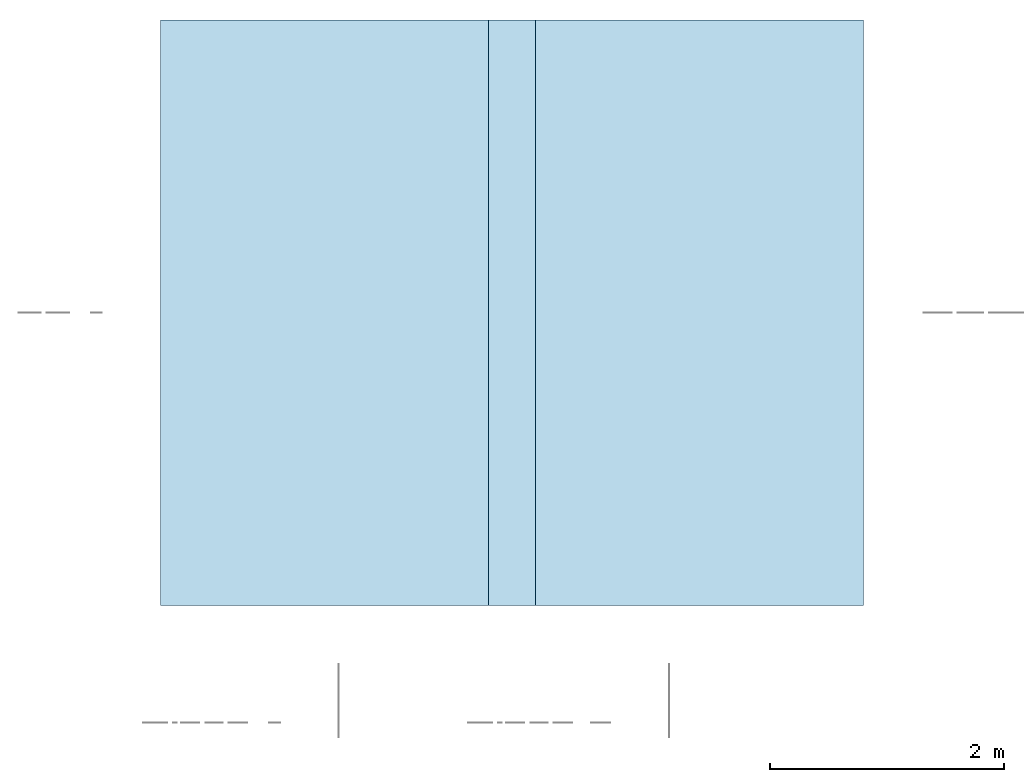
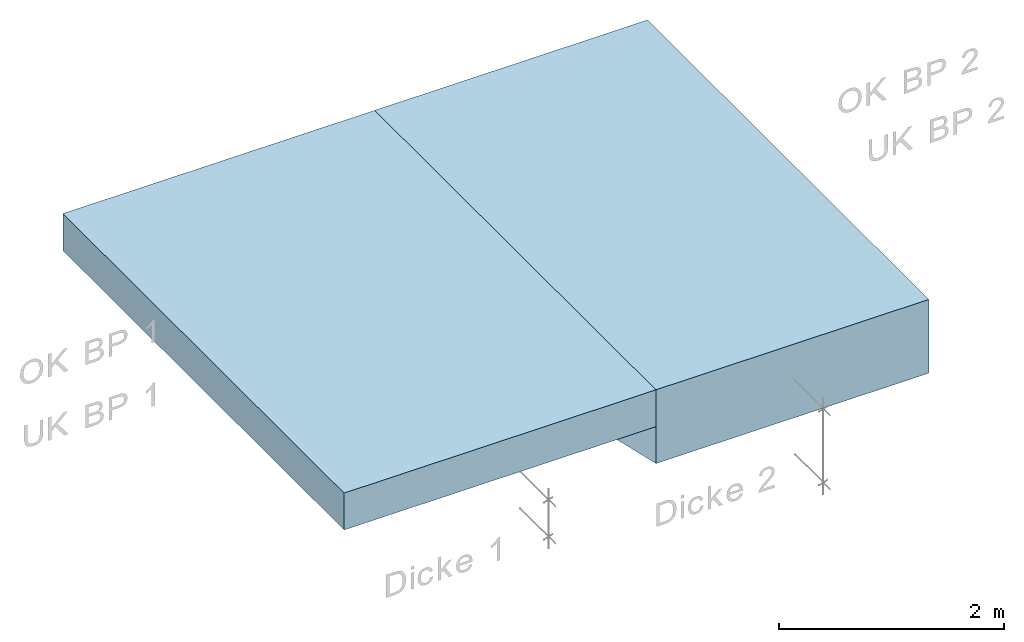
# One storey, part 1 of 3: 3 slabs.
"""IFC4 building model written with IfcOpenShell, lengths in metres."""

from ifc_helpers import new_model, entity, si_unit, converted_unit, derived_unit, frame, frame_2d, origin, place, context, subcontext, project, spatial, rectangle, extrude, faceted_brep, material, element, save


model = new_model("IFC4")

# Units and contexts
model_context = context("Model", 3, precision=1e-05, world=origin())
body_context = subcontext(model_context, "Body", "Model", "MODEL_VIEW")
ifc_project = project(units=[si_unit("LENGTHUNIT", "METRE"), si_unit("AREAUNIT", "SQUARE_METRE"), si_unit("VOLUMEUNIT", "CUBIC_METRE"), si_unit("MASSUNIT", "GRAM", prefix="KILO"), converted_unit("PLANEANGLEUNIT", "DEGREE", entity("IfcPlaneAngleMeasure", 0.0174532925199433), si_unit("PLANEANGLEUNIT", "RADIAN"), dimensions=[0, 0, 0, 0, 0, 0, 0]), derived_unit("THERMALTRANSMITTANCEUNIT", [(si_unit("POWERUNIT", "WATT"), 1), (si_unit("THERMODYNAMICTEMPERATUREUNIT", "KELVIN"), -1), (si_unit("LENGTHUNIT", "METRE"), -2)]), derived_unit("VOLUMETRICFLOWRATEUNIT", [(si_unit("LENGTHUNIT", "METRE"), 3), (converted_unit("TIMEUNIT", "hour", entity("IfcTimeMeasure", 3600.0), si_unit("TIMEUNIT", "SECOND"), dimensions=[0, 0, 1, 0, 0, 0, 0]), -1), (si_unit("LENGTHUNIT", "METRE"), -1)])], contexts=[model_context])

# Site, building, storey
site_placement = place(None, origin())
site = spatial("IfcSite", under=ifc_project, at=site_placement, Name="Liegenschaft", CompositionType="ELEMENT")
building_placement = place(site_placement, origin())
building = spatial("IfcBuilding", under=site, at=building_placement, Name="Gebäude", CompositionType="ELEMENT")
storey_placement = place(building_placement, origin())
storey = spatial("IfcBuildingStorey", under=building, at=storey_placement, Name="Geschoss 01", CompositionType="ELEMENT", Elevation=0.0)

# Slabs
ifc_material_1 = material(Name="C20/25")
slab_1_placement = place(storey_placement, frame((9.45478167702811, -2.46545639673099, -0.8)))
element("IfcSlab", 1, at=slab_1_placement, inside=storey, material=ifc_material_1, PredefinedType="BASESLAB", context=body_context, shape_type="Brep", body=[
    faceted_brep([(0.399999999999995, 0.0, 0.0), (0.399999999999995, 5.0, 0.0), (0.0, 5.0, 0.4), (0.0, 0.0, 0.4), (0.399999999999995, 0.0, 0.4), (0.399999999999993, 5.0, 0.4)], [[[0, 1, 2, 3]], [[0, 3, 4]], [[2, 1, 5]], [[4, 3, 2, 5]], [[0, 4, 5, 1]]], orient=[[False], [False], [False], [False], [False]]),
])
ifc_material_2 = material(Name="C20/25")
slab_2_placement = place(storey_placement, frame((6.65478167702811, -2.46545639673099, -0.4)))
element("IfcSlab", 2, at=slab_2_placement, inside=storey, material=ifc_material_2, PredefinedType="BASESLAB", context=body_context, shape_type="SweptSolid", body=[
    extrude(rectangle(XDim=5.0, YDim=3.2, at=frame_2d((-1.6, 2.5), x_axis=(0.0, 1.0))), frame((3.2, 0.0, 0.0), z_axis=(0.0, 0.0, 1.0), x_axis=(1.0, 0.0, 0.0)), (0.0, 0.0, 1.0), 0.4),
])
ifc_material_3 = material(Name="C20/25")
slab_3_placement = place(storey_placement, frame((9.85478167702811, -2.46545639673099, -0.8)))
element("IfcSlab", 3, at=slab_3_placement, inside=storey, material=ifc_material_3, PredefinedType="BASESLAB", context=body_context, shape_type="SweptSolid", body=[
    extrude(rectangle(XDim=5.0, YDim=2.8, at=frame_2d((-1.4, 2.5), x_axis=(0.0, 1.0))), frame((2.8, 0.0, 0.0), z_axis=(0.0, 0.0, 1.0), x_axis=(1.0, 0.0, 0.0)), (0.0, 0.0, 1.0), 0.8),
])

save(model, "model.ifc")
